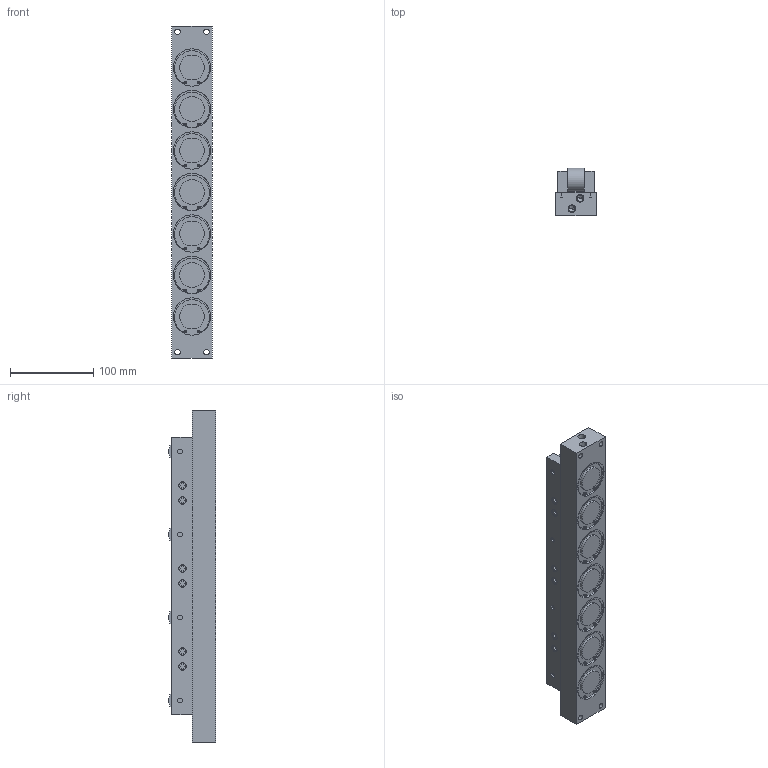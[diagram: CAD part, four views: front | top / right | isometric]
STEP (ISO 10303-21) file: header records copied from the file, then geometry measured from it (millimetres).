
FILE_DESCRIPTION (( 'STEP AP203' ), '1' );
FILE_NAME ('PVLR55SL-4.STEP', '2021-10-14T04:01:37', ( '' ), ( '' ), 'SwSTEP 2.0', 'SolidWorks 2013', '' );
FILE_SCHEMA (( 'CONFIG_CONTROL_DESIGN' ));
Length unit declared in the file: millimetre
Products named in the file (1): PVLR55SL-4
Bounding box: 49 x 57 x 400 mm (x, y, z)
Volume: 801354.5 mm3; surface area: 156395.4 mm2
Topology: 2 solids, 2 shells, 527 faces, 1293 edges, 840 vertices
Faces by surface type: plane 275, cylinder 244, cone 8
Entity records: 15808 total; most frequent: DIRECTION 2911, CARTESIAN_POINT 2657, ORIENTED_EDGE 2578, EDGE_CURVE 1289, AXIS2_PLACEMENT_3D 1094, VERTEX_POINT 840, VECTOR 723, LINE 723
